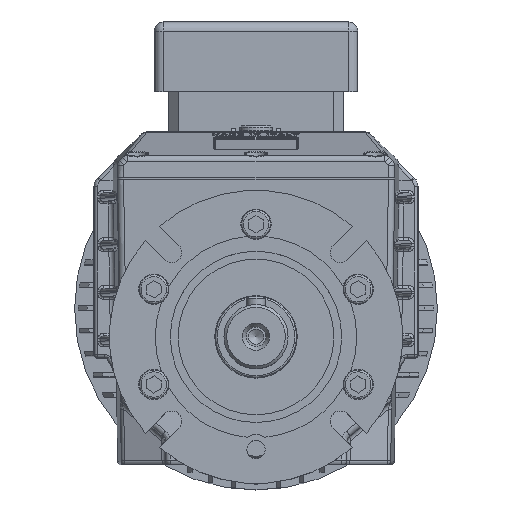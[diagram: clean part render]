
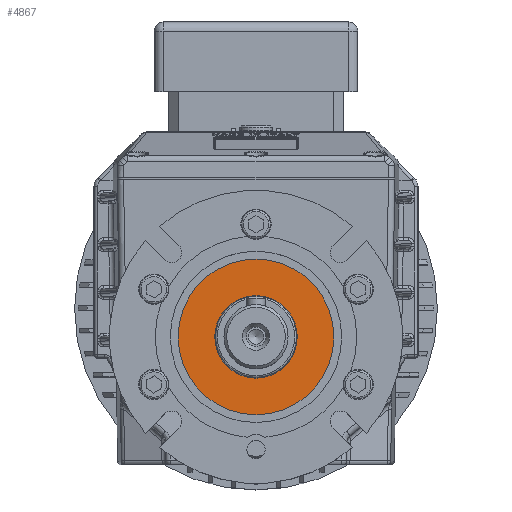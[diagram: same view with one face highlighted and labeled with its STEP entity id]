
A CAD part, top view. The second image highlights one B-rep face of the part: STEP entity #4867.
In plain terms, the highlighted planar face has unit normal (0, 0, 1).
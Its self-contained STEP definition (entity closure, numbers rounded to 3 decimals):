
#4867 = ADVANCED_FACE( '', ( #10194, #10195 ), #10196, .F. );
#10194 = FACE_BOUND( '', #22502, .T. );
#10195 = FACE_OUTER_BOUND( '', #22503, .T. );
#10196 = PLANE( '', #22504 );
#22502 = EDGE_LOOP( '', ( #36993 ) );
#22503 = EDGE_LOOP( '', ( #36994 ) );
#22504 = AXIS2_PLACEMENT_3D( '', #36995, #36996, #36997 );
#36993 = ORIENTED_EDGE( '', *, *, #43516, .T. );
#36994 = ORIENTED_EDGE( '', *, *, #43048, .F. );
#36995 = CARTESIAN_POINT( '', ( 0., 0., 12. ) );
#36996 = DIRECTION( '', ( 0., 0., -1. ) );
#36997 = DIRECTION( '', ( 1., 0., 0. ) );
#43048 = EDGE_CURVE( '', #51281, #51281, #51282, .T. );
#43516 = EDGE_CURVE( '', #51850, #51850, #51851, .T. );
#51281 = VERTEX_POINT( '', #67433 );
#51282 = CIRCLE( '', #67434, 42.5 );
#51850 = VERTEX_POINT( '', #68816 );
#51851 = CIRCLE( '', #68817, 22.5 );
#67433 = CARTESIAN_POINT( '', ( 0., 42.5, 12. ) );
#67434 = AXIS2_PLACEMENT_3D( '', #75454, #75455, #75456 );
#68816 = CARTESIAN_POINT( '', ( 0., 22.5, 12. ) );
#68817 = AXIS2_PLACEMENT_3D( '', #75849, #75850, #75851 );
#75454 = CARTESIAN_POINT( '', ( 0., 0., 12. ) );
#75455 = DIRECTION( '', ( 0., 0., -1. ) );
#75456 = DIRECTION( '', ( 0., 1., 0. ) );
#75849 = CARTESIAN_POINT( '', ( 0., 0., 12. ) );
#75850 = DIRECTION( '', ( 0., 0., -1. ) );
#75851 = DIRECTION( '', ( 0., 1., 0. ) );
